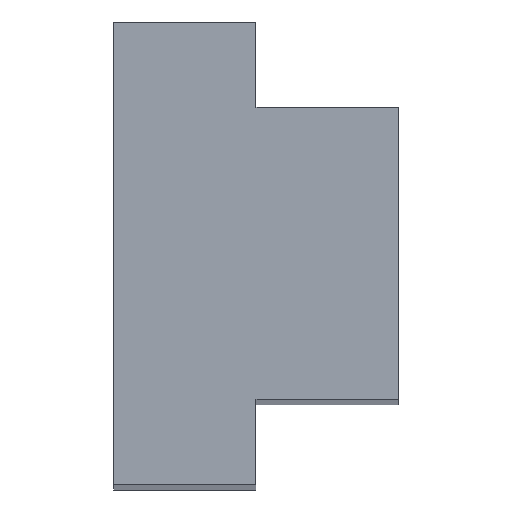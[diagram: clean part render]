
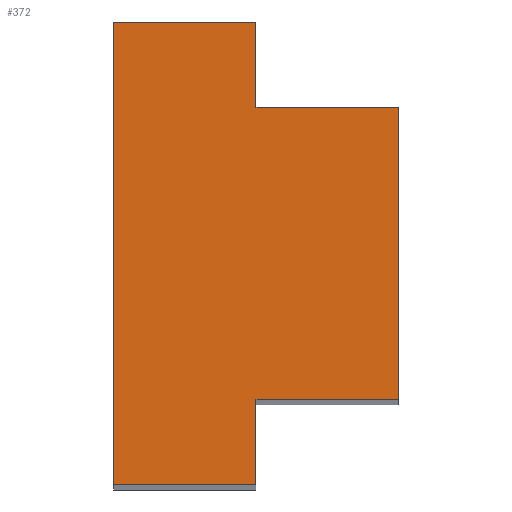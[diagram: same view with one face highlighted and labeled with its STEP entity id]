
A CAD part, top view. The second image highlights one B-rep face of the part: STEP entity #372.
In plain terms, the highlighted planar face has unit normal (0, 0, 1).
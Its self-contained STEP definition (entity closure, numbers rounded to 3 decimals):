
#12 = VECTOR ( 'NONE', #100, 1000. ) ;
#23 = PLANE ( 'NONE',  #367 ) ;
#25 = CARTESIAN_POINT ( 'NONE',  ( 4., 4.1, 45. ) ) ;
#26 = CARTESIAN_POINT ( 'NONE',  ( 8., 4.1, 45. ) ) ;
#27 = VECTOR ( 'NONE', #58, 1000. ) ;
#28 = ORIENTED_EDGE ( 'NONE', *, *, #101, .T. ) ;
#35 = CARTESIAN_POINT ( 'NONE',  ( 4., -4.1, 45. ) ) ;
#42 = EDGE_CURVE ( 'NONE', #72, #360, #349, .T. ) ;
#45 = VECTOR ( 'NONE', #67, 1000. ) ;
#58 = DIRECTION ( 'NONE',  ( -1., 0., 0. ) ) ;
#59 = CARTESIAN_POINT ( 'NONE',  ( 4., 6.5, 45. ) ) ;
#62 = VERTEX_POINT ( 'NONE', #59 ) ;
#67 = DIRECTION ( 'NONE',  ( 0., 1., 0. ) ) ;
#71 = CARTESIAN_POINT ( 'NONE',  ( 0., -6.5, 45. ) ) ;
#72 = VERTEX_POINT ( 'NONE', #26 ) ;
#76 = VECTOR ( 'NONE', #287, 1000. ) ;
#100 = DIRECTION ( 'NONE',  ( 0., -1., 0. ) ) ;
#101 = EDGE_CURVE ( 'NONE', #418, #319, #346, .T. ) ;
#105 = ORIENTED_EDGE ( 'NONE', *, *, #359, .T. ) ;
#114 = CARTESIAN_POINT ( 'NONE',  ( 4., 4.1, 45. ) ) ;
#116 = LINE ( 'NONE', #268, #27 ) ;
#141 = CARTESIAN_POINT ( 'NONE',  ( 0., -6.5, 45. ) ) ;
#145 = CARTESIAN_POINT ( 'NONE',  ( 0., 6.5, 45. ) ) ;
#148 = VERTEX_POINT ( 'NONE', #141 ) ;
#156 = EDGE_CURVE ( 'NONE', #313, #148, #209, .T. ) ;
#163 = DIRECTION ( 'NONE',  ( 0., 1., 0. ) ) ;
#167 = VECTOR ( 'NONE', #163, 1000. ) ;
#173 = EDGE_CURVE ( 'NONE', #202, #418, #212, .T. ) ;
#175 = VECTOR ( 'NONE', #368, 1000. ) ;
#194 = ORIENTED_EDGE ( 'NONE', *, *, #413, .T. ) ;
#202 = VERTEX_POINT ( 'NONE', #354 ) ;
#209 = LINE ( 'NONE', #429, #12 ) ;
#212 = LINE ( 'NONE', #247, #45 ) ;
#216 = ORIENTED_EDGE ( 'NONE', *, *, #173, .T. ) ;
#219 = CARTESIAN_POINT ( 'NONE',  ( 8., -4.1, 45. ) ) ;
#230 = DIRECTION ( 'NONE',  ( -1., 0., 0. ) ) ;
#232 = LINE ( 'NONE', #25, #167 ) ;
#238 = FACE_OUTER_BOUND ( 'NONE', #252, .T. ) ;
#247 = CARTESIAN_POINT ( 'NONE',  ( 4., -6.5, 45. ) ) ;
#248 = EDGE_CURVE ( 'NONE', #148, #202, #462, .T. ) ;
#252 = EDGE_LOOP ( 'NONE', ( #216, #28, #194, #388, #105, #293, #455, #330 ) ) ;
#255 = DIRECTION ( 'NONE',  ( 1., 0., 0. ) ) ;
#267 = VECTOR ( 'NONE', #255, 1000. ) ;
#268 = CARTESIAN_POINT ( 'NONE',  ( 4., 6.5, 45. ) ) ;
#273 = CARTESIAN_POINT ( 'NONE',  ( 8., 4.1, 45. ) ) ;
#281 = VECTOR ( 'NONE', #230, 1000. ) ;
#287 = DIRECTION ( 'NONE',  ( 1., 0., 0. ) ) ;
#293 = ORIENTED_EDGE ( 'NONE', *, *, #384, .T. ) ;
#308 = CARTESIAN_POINT ( 'NONE',  ( 8., -4.1, 45. ) ) ;
#313 = VERTEX_POINT ( 'NONE', #145 ) ;
#319 = VERTEX_POINT ( 'NONE', #219 ) ;
#330 = ORIENTED_EDGE ( 'NONE', *, *, #248, .T. ) ;
#335 = DIRECTION ( 'NONE',  ( -1., 0., 0. ) ) ;
#340 = CARTESIAN_POINT ( 'NONE',  ( 4., -4.1, 45. ) ) ;
#346 = LINE ( 'NONE', #35, #76 ) ;
#349 = LINE ( 'NONE', #273, #281 ) ;
#354 = CARTESIAN_POINT ( 'NONE',  ( 4., -6.5, 45. ) ) ;
#359 = EDGE_CURVE ( 'NONE', #360, #62, #232, .T. ) ;
#360 = VERTEX_POINT ( 'NONE', #114 ) ;
#367 = AXIS2_PLACEMENT_3D ( 'NONE', #447, #377, #335 ) ;
#368 = DIRECTION ( 'NONE',  ( 0., 1., 0. ) ) ;
#372 = ADVANCED_FACE ( 'NONE', ( #238 ), #23, .F. ) ;
#377 = DIRECTION ( 'NONE',  ( 0., 0., -1. ) ) ;
#384 = EDGE_CURVE ( 'NONE', #62, #313, #116, .T. ) ;
#388 = ORIENTED_EDGE ( 'NONE', *, *, #42, .T. ) ;
#407 = LINE ( 'NONE', #308, #175 ) ;
#413 = EDGE_CURVE ( 'NONE', #319, #72, #407, .T. ) ;
#418 = VERTEX_POINT ( 'NONE', #340 ) ;
#429 = CARTESIAN_POINT ( 'NONE',  ( 0., 6.5, 45. ) ) ;
#447 = CARTESIAN_POINT ( 'NONE',  ( 0., 0., 45. ) ) ;
#455 = ORIENTED_EDGE ( 'NONE', *, *, #156, .T. ) ;
#462 = LINE ( 'NONE', #71, #267 ) ;
